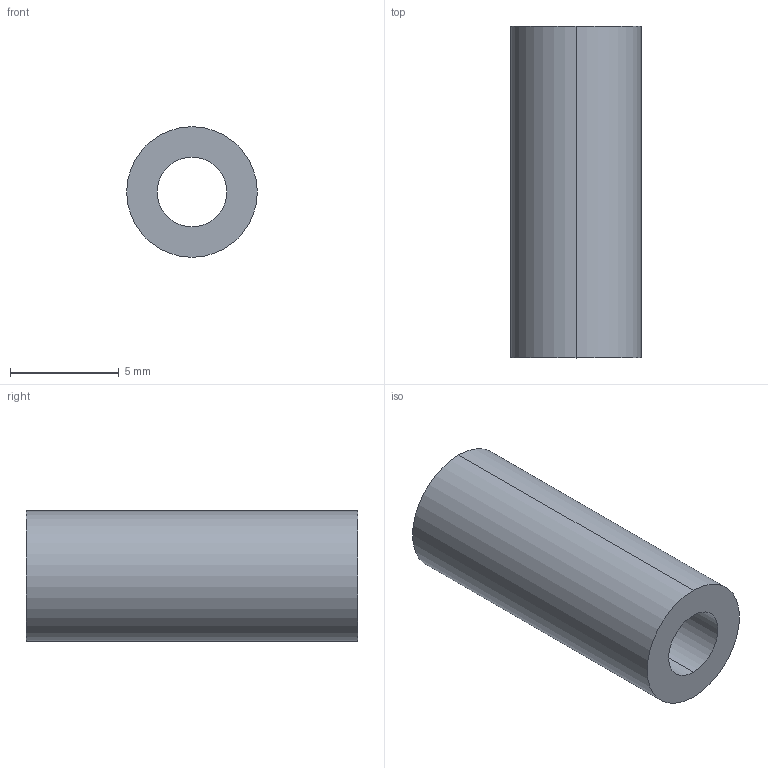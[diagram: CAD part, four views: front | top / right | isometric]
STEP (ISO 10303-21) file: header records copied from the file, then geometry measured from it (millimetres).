
FILE_DESCRIPTION (( 'STEP AP214' ), '1' );
FILE_NAME ('634-00909 Standoff, Round Thru M3 15.24mm.STEP', '2017-01-23T17:46:46', ( '' ), ( '' ), 'SwSTEP 2.0', 'SolidWorks 2014', '' );
FILE_SCHEMA (( 'AUTOMOTIVE_DESIGN' ));
Length unit declared in the file: millimetre
Products named in the file (2): 634-00909 Standoff, Round Thru M3 15.24mm
Bounding box: 6 x 15.24 x 6 mm (x, y, z)
Volume: 308.3 mm3; surface area: 480.9 mm2
Topology: 1 solids, 1 shells, 6 faces, 12 edges, 8 vertices
Faces by surface type: cylinder 4, plane 2
Entity records: 217 total; most frequent: DIRECTION 36, CARTESIAN_POINT 28, ORIENTED_EDGE 24, AXIS2_PLACEMENT_3D 16, EDGE_CURVE 12, VERTEX_POINT 8, EDGE_LOOP 8, CIRCLE 8
